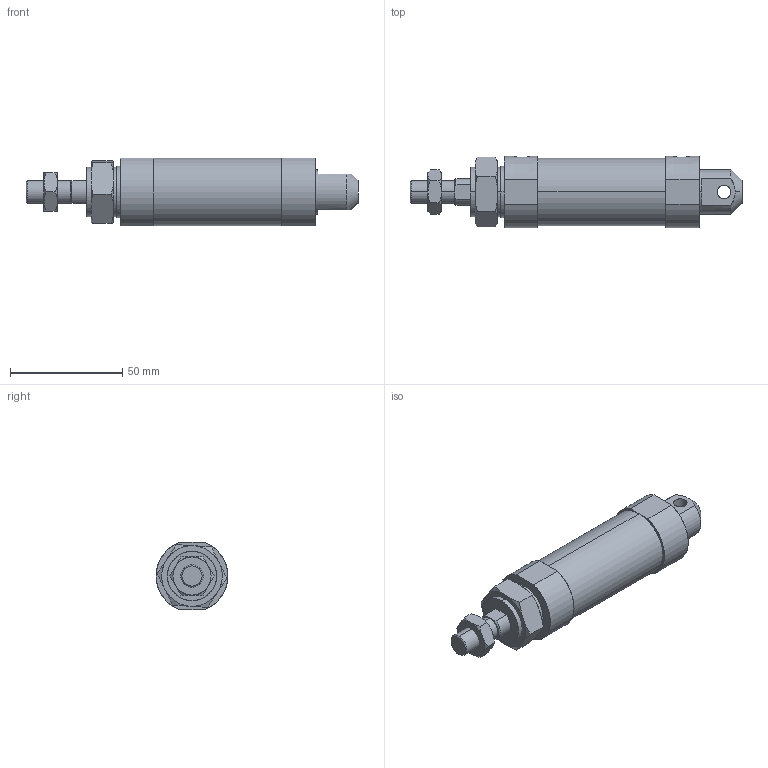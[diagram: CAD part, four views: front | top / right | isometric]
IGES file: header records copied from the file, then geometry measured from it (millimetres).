
Start section: SolidWorks IGES file using analytic representation for surfaces
Global section: file name: C:\Users\Toshiba\Desktop\J#2-25-25-C.IGS; native system: SolidWorks 2014; preprocessor: SolidWorks 2014; author: Toshiba; date: 160308.150854; units: millimetre
Bounding box: 148 x 32 x 30 mm (x, y, z)
Surface area: 17097.4 mm2 (no closed solid volume)
Topology: 0 solids, 0 shells, 96 faces, 1824 edges, 1824 vertices
Faces by surface type: bspline 64, revolution 32
